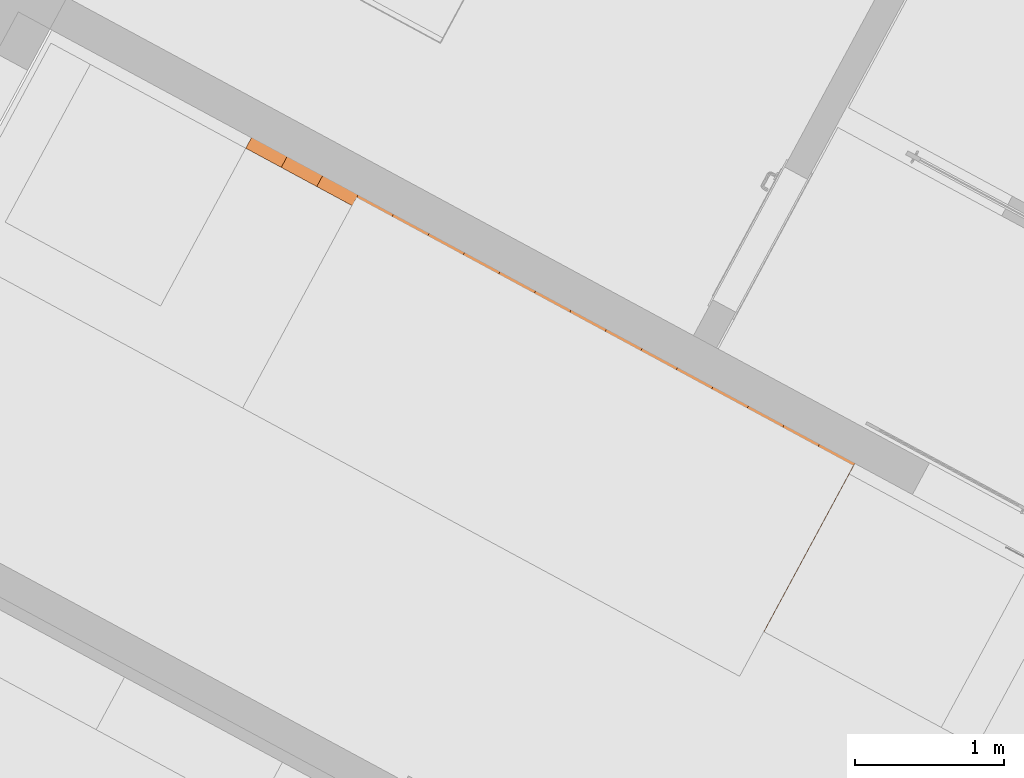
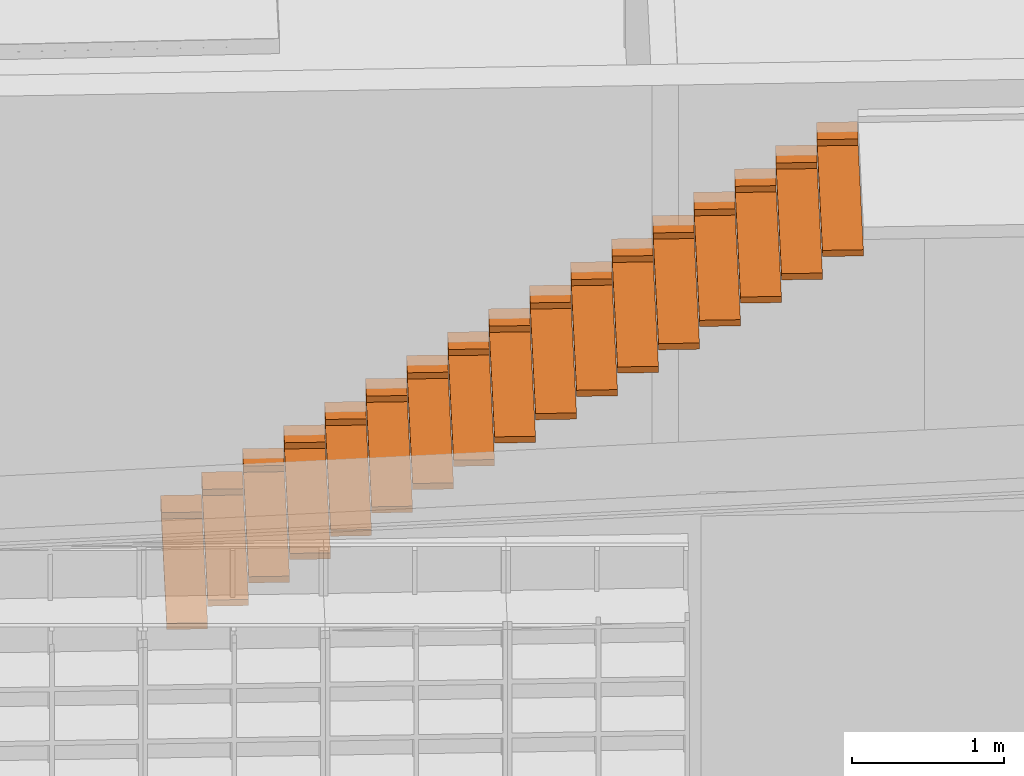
# One storey, part 50 of 52: 1 proxy.
"""IFC2X3 building model written with IfcOpenShell, lengths in metres."""

import ifcopenshell
import ifcopenshell.guid

model = None  # the IFC model being written
_history = None  # IfcOwnerHistory: only IFC2X3 demands one
_inside = {}  # id of a spatial element -> (the spatial element, [elements in it])
_under = {}  # id of a project, library or spatial element -> (it, [spatial elements below it])
_declared = {}  # id of a project -> (the project, [libraries it declares])
_typed = {}  # id of a type object -> (the type object, [elements of that type])
_made_of = {}  # id of a material, layer set ... -> (it, [elements and type objects made of it])


def new_model(schema):
    """Start an empty IFC model of exactly this schema.

    Asked for "IFC4X3", IfcOpenShell would pick the latest addendum, in which some entities
    have other attributes; the version numbers below select the first issue.
    IFC2X3 requires an IfcOwnerHistory on every rooted entity: one is made here for all.
    """
    global model, _history
    if schema == "IFC4X3":
        model = ifcopenshell.file(schema_version=(4, 3, 0, 0))
    else:
        model = ifcopenshell.file(schema=schema)
    _inside.clear()
    _under.clear()
    _declared.clear()
    _typed.clear()
    _made_of.clear()
    _history = None
    if model.schema == "IFC2X3":
        org = make("IfcOrganization", Name="unknown")
        user = make(
            "IfcPersonAndOrganization",
            ThePerson=make("IfcPerson", FamilyName="unknown"),
            TheOrganization=org,
        )
        app = make(
            "IfcApplication",
            ApplicationDeveloper=org,
            Version="unknown",
            ApplicationFullName="unknown",
            ApplicationIdentifier="unknown",
        )
        _history = make(
            "IfcOwnerHistory",
            OwningUser=user,
            OwningApplication=app,
            ChangeAction="ADDED",
            CreationDate=0,
        )
    return model


def make(cls, **values):
    """One entity of the class cls with the attributes given. An attribute that is None is left unset."""
    return model.create_entity(
        cls, **{name: value for name, value in values.items() if value is not None}
    )


def entity(cls, *values):
    """Any entity or typed value of the class cls, its attributes in the order of the schema. None: left unset."""
    e = model.create_entity(cls)
    for i, value in enumerate(values):
        if value is not None:
            e[i] = value
    return e


def rooted(cls, **values):
    """An entity with a GlobalId (a new one), such as an element, a storey or a relation."""
    return make(cls, GlobalId=ifcopenshell.guid.new(), OwnerHistory=_history, **values)


def si_unit(unit_type, name, prefix=None):
    """IfcSIUnit, for example si_unit("LENGTHUNIT", "METRE", prefix="MILLI")."""
    return make("IfcSIUnit", UnitType=unit_type, Prefix=prefix, Name=name)


def converted_unit(unit_type, name, factor, base, dimensions=None, offset=None):
    """IfcConversionBasedUnit, such as the inch: factor (a typed value) times the base unit."""
    return make(
        "IfcConversionBasedUnit"
        if offset is None
        else "IfcConversionBasedUnitWithOffset",
        ConversionOffset=offset,
        Dimensions=None
        if dimensions is None
        else entity("IfcDimensionalExponents", *dimensions),
        UnitType=unit_type,
        Name=name,
        ConversionFactor=make(
            "IfcMeasureWithUnit", ValueComponent=factor, UnitComponent=base
        ),
    )


def derived_unit(unit_type, elements):
    """IfcDerivedUnit: a product of units, each with its exponent."""
    return make(
        "IfcDerivedUnit",
        Elements=[
            make("IfcDerivedUnitElement", Unit=unit, Exponent=power)
            for unit, power in elements
        ],
        UnitType=unit_type,
    )


def money_unit(currency):
    """IfcMonetaryUnit."""
    return make("IfcMonetaryUnit", Currency=currency)


def assignment(units):
    """IfcUnitAssignment: the units of a project."""
    return None if units is None else make("IfcUnitAssignment", Units=units)


def point(xyz):
    """IfcCartesianPoint."""
    return None if xyz is None else make("IfcCartesianPoint", Coordinates=xyz)


def direction(xyz):
    """IfcDirection."""
    return None if xyz is None else make("IfcDirection", DirectionRatios=xyz)


def frame(location, z_axis=None, x_axis=None):
    """IfcAxis2Placement3D, a coordinate frame: its origin and axes. An axis left out is left unset."""
    return make(
        "IfcAxis2Placement3D",
        Location=point(location),
        Axis=direction(z_axis),
        RefDirection=direction(x_axis),
    )


def origin_with_axes():
    """The frame at (0, 0, 0) with the z axis (0, 0, 1) and the x axis (1, 0, 0) written out."""
    return frame((0.0, 0.0, 0.0), z_axis=(0.0, 0.0, 1.0), x_axis=(1.0, 0.0, 0.0))


def place(relative_to, where):
    """IfcLocalPlacement: puts the frame where relative to a parent placement (None: the world)."""
    return make(
        "IfcLocalPlacement", PlacementRelTo=relative_to, RelativePlacement=where
    )


def context(
    kind, dimensions, precision=None, world=None, true_north=None, identifier=None
):
    """IfcGeometricRepresentationContext, for example the 3D "Model" context."""
    return make(
        "IfcGeometricRepresentationContext",
        ContextIdentifier=identifier,
        ContextType=kind,
        CoordinateSpaceDimension=dimensions,
        Precision=precision,
        WorldCoordinateSystem=world,
        TrueNorth=true_north,
    )


def subcontext(parent, identifier, kind, view, scale=None):
    """IfcGeometricRepresentationSubContext, for example "Body" below "Model"."""
    return make(
        "IfcGeometricRepresentationSubContext",
        ContextIdentifier=identifier,
        ContextType=kind,
        ParentContext=parent,
        TargetScale=scale,
        TargetView=view,
    )


def project(units=None, contexts=None):
    """IfcProject with its units and contexts."""
    return rooted(
        "IfcProject",
        Name="project",
        RepresentationContexts=contexts,
        UnitsInContext=assignment(units),
    )


def spatial(cls, under=None, at=None, **own):
    """A site, building, storey or space (cls), placed at a placement, below another one or the project."""
    s = rooted(cls, ObjectPlacement=at, **own)
    if under is not None:
        _under.setdefault(under.id(), (under, []))[1].append(s)
    return s


def faces_of(points, faces, orient=None, outer=None):
    """IfcFace entities. A face is a list of loops; a loop is a list of indices into points, from 0.

    orient and outer hold one flag for each loop. By default every Orientation is true, the
    first loop of a face is its IfcFaceOuterBound and the others are IfcFaceBound.
    """
    made = []
    for i, loops in enumerate(faces):
        bounds = []
        for j, loop in enumerate(loops):
            is_outer = j == 0 if outer is None else outer[i][j]
            bounds.append(
                make(
                    "IfcFaceOuterBound" if is_outer else "IfcFaceBound",
                    Bound=make("IfcPolyLoop", Polygon=[points[k] for k in loop]),
                    Orientation=True if orient is None else orient[i][j],
                )
            )
        made.append(make("IfcFace", Bounds=bounds))
    return made


def faceted_brep(points, faces, orient=None, outer=None, voids=None):
    """IfcFacetedBrep: a solid bounded by flat faces; with voids (closed shells), ...WithVoids."""
    shared = [point(p) for p in points]
    hull = make("IfcClosedShell", CfsFaces=faces_of(shared, faces, orient, outer))
    if voids is None:
        return make("IfcFacetedBrep", Outer=hull)
    return make(
        "IfcFacetedBrepWithVoids",
        Outer=hull,
        Voids=[
            make(cls, CfsFaces=faces_of(shared, fs, o, b)) for cls, fs, o, b in voids
        ],
    )


def shape(context_of_items, identifier, shape_type, items):
    """IfcShapeRepresentation: the items that make up one representation, for example the "Body"."""
    return make(
        "IfcShapeRepresentation",
        ContextOfItems=context_of_items,
        RepresentationIdentifier=identifier,
        RepresentationType=shape_type,
        Items=items,
    )


def material(Name=None, Category=None):
    """IfcMaterial."""
    return make("IfcMaterial", Name=Name, Category=Category)


def made_of(thing, what):
    """Note that an element or type object is made of a material, layer set ...; save() writes the relation."""
    if what is not None:
        _made_of.setdefault(what.id(), (what, []))[1].append(thing)
    return thing


def type_object(cls, material=None, **own):
    """A type object (cls), such as IfcWallType, which elements share."""
    return made_of(rooted(cls, **own), material)


def element(
    cls,
    number,
    at=None,
    inside=None,
    cuts=None,
    type_object=None,
    material=None,
    context=None,
    identifier="Body",
    shape_type=None,
    held_by="IfcProductDefinitionShape",
    body=None,
    shapes=None,
    **own,
):
    """One element of the class cls, such as IfcWall. Its Tag is "e" and its number.

    at: its placement. inside: the storey or other place that contains it. cuts: it is an
    opening in that element (IfcRelVoidsElement). A single representation is given by context,
    identifier, shape_type and body (its items); several are given by shapes. held_by: the class
    of the entity that holds the representations. save() writes the other relations.
    """
    e = rooted(cls, Tag="e%d" % number, ObjectPlacement=at, **own)
    if body is not None:
        shapes = [shape(context, identifier, shape_type, body)]
    if shapes is not None:
        e.Representation = make(held_by, Representations=shapes)
    if inside is not None:
        _inside.setdefault(inside.id(), (inside, []))[1].append(e)
    if cuts is not None:
        rooted(
            "IfcRelVoidsElement", RelatingBuildingElement=cuts, RelatedOpeningElement=e
        )
    if type_object is not None:
        _typed.setdefault(type_object.id(), (type_object, []))[1].append(e)
    return made_of(e, material)


def aggregate(whole, parts):
    """IfcRelAggregates: a whole, such as a stair, and the parts it consists of."""
    return rooted("IfcRelAggregates", RelatingObject=whole, RelatedObjects=parts)


def save(model, path):
    """Write the relations noted so far, then the file.

    IfcRelAggregates (storeys below a building ...), IfcRelContainedInSpatialStructure (elements
    in a storey), IfcRelDefinesByType, IfcRelAssociatesMaterial and IfcRelDeclares: one each for
    every whole, place, type object, material and project.
    """
    for whole, parts in _under.values():
        aggregate(whole, parts)
    for where, things in _inside.values():
        rooted(
            "IfcRelContainedInSpatialStructure",
            RelatedElements=things,
            RelatingStructure=where,
        )
    for kind, things in _typed.values():
        rooted("IfcRelDefinesByType", RelatedObjects=things, RelatingType=kind)
    for what, things in _made_of.values():
        rooted("IfcRelAssociatesMaterial", RelatedObjects=things, RelatingMaterial=what)
    for by, libraries in _declared.values():
        rooted("IfcRelDeclares", RelatingContext=by, RelatedDefinitions=libraries)
    model.write(path)


model = new_model("IFC2X3")

# Units and contexts
model_context = context("Model", 3, precision=1e-05, world=origin_with_axes(), true_north=direction((0.0, 1.0)))
body_context = subcontext(model_context, "Body", "Model", "MODEL_VIEW")
ifc_project = project(units=[si_unit("LENGTHUNIT", "METRE"), si_unit("AREAUNIT", "SQUARE_METRE"), si_unit("VOLUMEUNIT", "CUBIC_METRE"), converted_unit("PLANEANGLEUNIT", "DEGREE", entity("IfcPlaneAngleMeasure", 0.0174532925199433), si_unit("PLANEANGLEUNIT", "RADIAN"), dimensions=[0, 0, 0, 0, 0, 0, 0]), money_unit("EUR"), converted_unit("TIMEUNIT", "Year", entity("IfcTimeMeasure", 31556926.0), si_unit("TIMEUNIT", "SECOND"), dimensions=[0, 0, 1, 0, 0, 0, 0]), si_unit("MASSUNIT", "GRAM", prefix="KILO"), si_unit("THERMODYNAMICTEMPERATUREUNIT", "DEGREE_CELSIUS"), si_unit("LUMINOUSINTENSITYUNIT", "LUMEN"), si_unit("ENERGYUNIT", "JOULE", prefix="MEGA"), derived_unit("THERMALCONDUCTANCEUNIT", [(si_unit("POWERUNIT", "WATT"), 1), (si_unit("LENGTHUNIT", "METRE"), -1), (si_unit("THERMODYNAMICTEMPERATUREUNIT", "KELVIN"), -1)]), derived_unit("SPECIFICHEATCAPACITYUNIT", [(si_unit("ENERGYUNIT", "JOULE"), 1), (si_unit("MASSUNIT", "GRAM", prefix="KILO"), -1), (si_unit("THERMODYNAMICTEMPERATUREUNIT", "KELVIN"), -1)]), derived_unit("MASSDENSITYUNIT", [(si_unit("MASSUNIT", "GRAM", prefix="KILO"), 1), (si_unit("VOLUMEUNIT", "CUBIC_METRE"), -1)])], contexts=[model_context])

# Site, building, storey
site_placement = place(None, frame((-3.949935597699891, 1.740105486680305, 0.0), z_axis=(0.0, 0.0, 1.0), x_axis=(0.8799804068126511, -0.475009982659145, 0.0)))
site = spatial("IfcSite", under=ifc_project, at=site_placement, Name="Gelände", CompositionType="ELEMENT")
building_placement = place(site_placement, origin_with_axes())
building = spatial("IfcBuilding", under=site, at=building_placement, Name="Gebäude", CompositionType="ELEMENT")
storey_placement = place(building_placement, origin_with_axes())
storey = spatial("IfcBuildingStorey", under=building, at=storey_placement, Name="Erdgeschoss", CompositionType="ELEMENT", Elevation=0.0)

# Proxy
ifc_material = material(Name="Metall, Stahl lackiert")
building_element_proxy_type = type_object("IfcBuildingElementProxyType", Name="Treppentyp", PredefinedType="NOTDEFINED")
proxy_placement = place(storey_placement, frame((7.129984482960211, 10.57779198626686, 0.364), z_axis=(0.0, 0.0, 1.0), x_axis=(1.0, 0.0, 0.0)))
element("IfcBuildingElementProxy", 1, at=proxy_placement, inside=storey, type_object=building_element_proxy_type, material=ifc_material, Name="Treppe-001", context=body_context, shape_type="Brep", body=[
    faceted_brep([(0.269999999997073, 1.257022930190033e-06, 0.1220000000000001), (0.2699990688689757, 0.2000012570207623, 0.1220000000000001), (0.2699990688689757, 0.2000012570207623, 0.2220000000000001), (0.269999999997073, 1.257022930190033e-06, 0.2220000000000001), (0.0, 0.0, 0.1220000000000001), (-9.311280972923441e-07, 0.1999999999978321, 0.1220000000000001), (-9.311280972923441e-07, 0.1999999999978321, 0.2220000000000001), (0.0, 0.0, 0.2220000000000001)], [[[0, 1, 2, 3]], [[0, 4, 5, 1]], [[1, 5, 6, 2]], [[3, 2, 6, 7]], [[4, 0, 3, 7]], [[5, 4, 7, 6]]]),
    faceted_brep([(0.5399999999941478, 2.514045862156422e-06, 0.304), (0.5399990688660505, 0.2000025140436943, 0.304), (0.5399990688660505, 0.2000025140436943, 0.404), (0.5399999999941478, 2.514045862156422e-06, 0.404), (0.269999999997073, 1.257022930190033e-06, 0.304), (0.2699990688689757, 0.2000012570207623, 0.304), (0.2699990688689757, 0.2000012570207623, 0.404), (0.269999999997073, 1.257022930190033e-06, 0.404)], [[[0, 1, 2, 3]], [[0, 4, 5, 1]], [[1, 5, 6, 2]], [[3, 2, 6, 7]], [[4, 0, 3, 7]], [[5, 4, 7, 6]]]),
    faceted_brep([(0.8099999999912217, 3.771068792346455e-06, 0.4860000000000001), (0.8099990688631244, 0.2000037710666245, 0.4860000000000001), (0.8099990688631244, 0.2000037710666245, 0.5860000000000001), (0.8099999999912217, 3.771068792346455e-06, 0.5860000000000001), (0.5399999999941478, 2.514045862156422e-06, 0.4860000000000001), (0.5399990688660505, 0.2000025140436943, 0.4860000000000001), (0.5399990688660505, 0.2000025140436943, 0.5860000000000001), (0.5399999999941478, 2.514045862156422e-06, 0.5860000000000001)], [[[0, 1, 2, 3]], [[0, 4, 5, 1]], [[1, 5, 6, 2]], [[3, 2, 6, 7]], [[4, 0, 3, 7]], [[5, 4, 7, 6]]]),
    faceted_brep([(1.079999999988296, 5.028091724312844e-06, 0.668), (1.079999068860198, 0.2000050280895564, 0.668), (1.079999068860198, 0.2000050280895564, 0.7680000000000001), (1.079999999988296, 5.028091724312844e-06, 0.7680000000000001), (0.8099999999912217, 3.771068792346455e-06, 0.668), (0.8099990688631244, 0.2000037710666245, 0.668), (0.8099990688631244, 0.2000037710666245, 0.7680000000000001), (0.8099999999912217, 3.771068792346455e-06, 0.7680000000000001)], [[[0, 1, 2, 3]], [[0, 4, 5, 1]], [[1, 5, 6, 2]], [[3, 2, 6, 7]], [[4, 0, 3, 7]], [[5, 4, 7, 6]]]),
    faceted_brep([(1.34999999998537, 6.285114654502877e-06, 0.85), (1.349999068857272, 0.2000062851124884, 0.85), (1.349999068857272, 0.2000062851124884, 0.9500000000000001), (1.34999999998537, 6.285114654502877e-06, 0.9500000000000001), (1.079999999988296, 5.028091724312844e-06, 0.85), (1.079999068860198, 0.2000050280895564, 0.85), (1.079999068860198, 0.2000050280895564, 0.9500000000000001), (1.079999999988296, 5.028091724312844e-06, 0.9500000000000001)], [[[0, 1, 2, 3]], [[0, 4, 5, 1]], [[1, 5, 6, 2]], [[3, 2, 6, 7]], [[4, 0, 3, 7]], [[5, 4, 7, 6]]]),
    faceted_brep([(1.619999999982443, 7.542137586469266e-06, 1.032), (1.619999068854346, 0.2000075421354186, 1.032), (1.619999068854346, 0.2000075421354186, 1.132), (1.619999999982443, 7.542137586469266e-06, 1.132), (1.34999999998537, 6.285114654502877e-06, 1.032), (1.349999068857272, 0.2000062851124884, 1.032), (1.349999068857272, 0.2000062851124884, 1.132), (1.34999999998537, 6.285114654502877e-06, 1.132)], [[[0, 1, 2, 3]], [[0, 4, 5, 1]], [[1, 5, 6, 2]], [[3, 2, 6, 7]], [[4, 0, 3, 7]], [[5, 4, 7, 6]]]),
    faceted_brep([(1.889999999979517, 8.799160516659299e-06, 1.214), (1.88999906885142, 0.2000087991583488, 1.214), (1.88999906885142, 0.2000087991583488, 1.314), (1.889999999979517, 8.799160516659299e-06, 1.314), (1.619999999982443, 7.542137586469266e-06, 1.214), (1.619999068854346, 0.2000075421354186, 1.214), (1.619999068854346, 0.2000075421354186, 1.314), (1.619999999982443, 7.542137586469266e-06, 1.314)], [[[0, 1, 2, 3]], [[0, 4, 5, 1]], [[1, 5, 6, 2]], [[3, 2, 6, 7]], [[4, 0, 3, 7]], [[5, 4, 7, 6]]]),
    faceted_brep([(2.159999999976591, 1.005618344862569e-05, 1.396), (2.159999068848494, 0.2000100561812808, 1.396), (2.159999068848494, 0.2000100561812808, 1.496), (2.159999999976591, 1.005618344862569e-05, 1.496), (1.889999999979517, 8.799160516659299e-06, 1.396), (1.88999906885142, 0.2000087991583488, 1.396), (1.88999906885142, 0.2000087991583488, 1.496), (1.889999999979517, 8.799160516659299e-06, 1.496)], [[[0, 1, 2, 3]], [[0, 4, 5, 1]], [[1, 5, 6, 2]], [[3, 2, 6, 7]], [[4, 0, 3, 7]], [[5, 4, 7, 6]]]),
    faceted_brep([(2.429999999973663, 1.131320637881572e-05, 1.578), (2.429999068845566, 0.2000113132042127, 1.578), (2.429999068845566, 0.2000113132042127, 1.678), (2.429999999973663, 1.131320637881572e-05, 1.678), (2.159999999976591, 1.005618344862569e-05, 1.578), (2.159999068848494, 0.2000100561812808, 1.578), (2.159999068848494, 0.2000100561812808, 1.678), (2.159999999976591, 1.005618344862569e-05, 1.678)], [[[0, 1, 2, 3]], [[0, 4, 5, 1]], [[1, 5, 6, 2]], [[3, 2, 6, 7]], [[4, 0, 3, 7]], [[5, 4, 7, 6]]]),
    faceted_brep([(2.699999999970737, 1.257022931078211e-05, 1.76), (2.69999906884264, 0.2000125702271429, 1.76), (2.69999906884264, 0.2000125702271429, 1.86), (2.699999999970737, 1.257022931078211e-05, 1.86), (2.429999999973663, 1.131320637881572e-05, 1.76), (2.429999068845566, 0.2000113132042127, 1.76), (2.429999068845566, 0.2000113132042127, 1.86), (2.429999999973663, 1.131320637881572e-05, 1.86)], [[[0, 1, 2, 3]], [[0, 4, 5, 1]], [[1, 5, 6, 2]], [[3, 2, 6, 7]], [[4, 0, 3, 7]], [[5, 4, 7, 6]]]),
    faceted_brep([(2.969999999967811, 1.382725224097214e-05, 1.942), (2.969999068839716, 0.2000138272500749, 1.942), (2.969999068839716, 0.2000138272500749, 2.042), (2.969999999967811, 1.382725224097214e-05, 2.042), (2.699999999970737, 1.257022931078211e-05, 1.942), (2.69999906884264, 0.2000125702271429, 1.942), (2.69999906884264, 0.2000125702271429, 2.042), (2.699999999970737, 1.257022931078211e-05, 2.042)], [[[0, 1, 2, 3]], [[0, 4, 5, 1]], [[1, 5, 6, 2]], [[3, 2, 6, 7]], [[4, 0, 3, 7]], [[5, 4, 7, 6]]]),
    faceted_brep([(3.239999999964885, 1.508427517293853e-05, 2.124000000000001), (3.239999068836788, 0.2000150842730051, 2.124000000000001), (3.239999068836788, 0.2000150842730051, 2.224), (3.239999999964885, 1.508427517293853e-05, 2.224), (2.969999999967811, 1.382725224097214e-05, 2.124000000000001), (2.969999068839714, 0.2000138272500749, 2.124000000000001), (2.969999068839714, 0.2000138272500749, 2.224), (2.969999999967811, 1.382725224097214e-05, 2.224)], [[[0, 1, 2, 3]], [[0, 4, 5, 1]], [[1, 5, 6, 2]], [[3, 2, 6, 7]], [[4, 0, 3, 7]], [[5, 4, 7, 6]]]),
    faceted_brep([(3.509999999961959, 1.634129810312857e-05, 2.306000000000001), (3.509999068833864, 0.200016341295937, 2.306000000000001), (3.509999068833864, 0.200016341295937, 2.406000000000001), (3.509999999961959, 1.634129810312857e-05, 2.406000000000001), (3.239999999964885, 1.508427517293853e-05, 2.306000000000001), (3.239999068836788, 0.2000150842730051, 2.306000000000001), (3.239999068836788, 0.2000150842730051, 2.406000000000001), (3.239999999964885, 1.508427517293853e-05, 2.406000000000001)], [[[0, 1, 2, 3]], [[0, 4, 5, 1]], [[1, 5, 6, 2]], [[3, 2, 6, 7]], [[4, 0, 3, 7]], [[5, 4, 7, 6]]]),
    faceted_brep([(3.779999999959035, 1.759832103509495e-05, 2.488), (3.779999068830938, 0.2000175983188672, 2.488), (3.779999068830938, 0.2000175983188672, 2.588000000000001), (3.779999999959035, 1.759832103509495e-05, 2.588000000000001), (3.509999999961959, 1.634129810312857e-05, 2.488), (3.509999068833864, 0.200016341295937, 2.488), (3.509999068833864, 0.200016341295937, 2.588000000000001), (3.509999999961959, 1.634129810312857e-05, 2.588000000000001)], [[[0, 1, 2, 3]], [[0, 4, 5, 1]], [[1, 5, 6, 2]], [[3, 2, 6, 7]], [[4, 0, 3, 7]], [[5, 4, 7, 6]]]),
    faceted_brep([(4.04999999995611, 1.885534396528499e-05, 2.670000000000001), (4.049999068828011, 0.2000188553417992, 2.670000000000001), (4.049999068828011, 0.2000188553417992, 2.77), (4.04999999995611, 1.885534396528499e-05, 2.77), (3.779999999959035, 1.759832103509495e-05, 2.670000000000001), (3.779999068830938, 0.2000175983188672, 2.670000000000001), (3.779999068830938, 0.2000175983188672, 2.77), (3.779999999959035, 1.759832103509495e-05, 2.77)], [[[0, 1, 2, 3]], [[0, 4, 5, 1]], [[1, 5, 6, 2]], [[3, 2, 6, 7]], [[4, 0, 3, 7]], [[5, 4, 7, 6]]]),
    faceted_brep([(4.319999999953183, 2.011236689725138e-05, 2.852), (4.319999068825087, 0.2000201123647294, 2.852), (4.319999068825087, 0.2000201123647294, 2.952000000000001), (4.319999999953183, 2.011236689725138e-05, 2.952000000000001), (4.04999999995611, 1.885534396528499e-05, 2.852), (4.049999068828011, 0.2000188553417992, 2.852), (4.049999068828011, 0.2000188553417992, 2.952000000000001), (4.04999999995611, 1.885534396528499e-05, 2.952000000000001)], [[[0, 1, 2, 3]], [[0, 4, 5, 1]], [[1, 5, 6, 2]], [[3, 2, 6, 7]], [[4, 0, 3, 7]], [[5, 4, 7, 6]]]),
    faceted_brep([(4.589999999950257, 2.136938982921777e-05, 3.034000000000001), (4.589999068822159, 0.2000213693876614, 3.034000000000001), (4.589999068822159, 0.2000213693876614, 3.134), (4.589999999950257, 2.136938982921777e-05, 3.134), (4.319999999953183, 2.011236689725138e-05, 3.034000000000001), (4.319999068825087, 0.2000201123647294, 3.034000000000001), (4.319999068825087, 0.2000201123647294, 3.134), (4.319999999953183, 2.011236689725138e-05, 3.134)], [[[0, 1, 2, 3]], [[0, 4, 5, 1]], [[1, 5, 6, 2]], [[3, 2, 6, 7]], [[4, 0, 3, 7]], [[5, 4, 7, 6]]]),
    faceted_brep([(0.0, 0.0, 0.1220000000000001), (5.586768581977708e-06, -1.199999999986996, 0.1220000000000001), (5.586768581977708e-06, -1.199999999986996, 0.172), (0.0, 0.0, 0.172), (0.269999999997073, 1.257022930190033e-06, 0.1220000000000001), (0.2700055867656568, -1.199998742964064, 0.1220000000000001), (0.2700055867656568, -1.199998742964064, 0.172), (0.269999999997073, 1.257022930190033e-06, 0.172)], [[[0, 1, 2, 3]], [[0, 4, 5, 1]], [[1, 5, 6, 2]], [[3, 2, 6, 7]], [[4, 0, 3, 7]], [[5, 4, 7, 6]]]),
    faceted_brep([(0.269999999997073, 1.257022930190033e-06, 0.304), (0.2700055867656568, -1.199998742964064, 0.304), (0.2700055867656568, -1.199998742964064, 0.354), (0.269999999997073, 1.257022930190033e-06, 0.354), (0.5399999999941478, 2.514045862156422e-06, 0.304), (0.5400055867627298, -1.199997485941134, 0.304), (0.5400055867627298, -1.199997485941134, 0.354), (0.5399999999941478, 2.514045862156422e-06, 0.354)], [[[0, 1, 2, 3]], [[0, 4, 5, 1]], [[1, 5, 6, 2]], [[3, 2, 6, 7]], [[4, 0, 3, 7]], [[5, 4, 7, 6]]]),
    faceted_brep([(0.5399999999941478, 2.514045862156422e-06, 0.4860000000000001), (0.5400055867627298, -1.199997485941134, 0.4860000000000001), (0.5400055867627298, -1.199997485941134, 0.5360000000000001), (0.5399999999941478, 2.514045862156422e-06, 0.5360000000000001), (0.8099999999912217, 3.771068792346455e-06, 0.4860000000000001), (0.8100055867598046, -1.199996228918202, 0.4860000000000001), (0.8100055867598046, -1.199996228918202, 0.5360000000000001), (0.8099999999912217, 3.771068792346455e-06, 0.5360000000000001)], [[[0, 1, 2, 3]], [[0, 4, 5, 1]], [[1, 5, 6, 2]], [[3, 2, 6, 7]], [[4, 0, 3, 7]], [[5, 4, 7, 6]]]),
    faceted_brep([(0.8099999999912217, 3.771068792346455e-06, 0.668), (0.8100055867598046, -1.199996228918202, 0.668), (0.8100055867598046, -1.199996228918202, 0.7180000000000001), (0.8099999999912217, 3.771068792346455e-06, 0.7180000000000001), (1.079999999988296, 5.028091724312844e-06, 0.668), (1.080005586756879, -1.19999497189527, 0.668), (1.080005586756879, -1.19999497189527, 0.7180000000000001), (1.079999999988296, 5.028091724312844e-06, 0.7180000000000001)], [[[0, 1, 2, 3]], [[0, 4, 5, 1]], [[1, 5, 6, 2]], [[3, 2, 6, 7]], [[4, 0, 3, 7]], [[5, 4, 7, 6]]]),
    faceted_brep([(1.079999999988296, 5.028091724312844e-06, 0.85), (1.080005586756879, -1.19999497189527, 0.85), (1.080005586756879, -1.19999497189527, 0.9), (1.079999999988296, 5.028091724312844e-06, 0.9), (1.34999999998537, 6.285114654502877e-06, 0.85), (1.350005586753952, -1.19999371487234, 0.85), (1.350005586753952, -1.19999371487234, 0.9), (1.34999999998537, 6.285114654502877e-06, 0.9)], [[[0, 1, 2, 3]], [[0, 4, 5, 1]], [[1, 5, 6, 2]], [[3, 2, 6, 7]], [[4, 0, 3, 7]], [[5, 4, 7, 6]]]),
    faceted_brep([(1.34999999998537, 6.285114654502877e-06, 1.032), (1.350005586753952, -1.19999371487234, 1.032), (1.350005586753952, -1.19999371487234, 1.082), (1.34999999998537, 6.285114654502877e-06, 1.082), (1.619999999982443, 7.542137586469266e-06, 1.032), (1.620005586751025, -1.199992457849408, 1.032), (1.620005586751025, -1.199992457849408, 1.082), (1.619999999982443, 7.542137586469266e-06, 1.082)], [[[0, 1, 2, 3]], [[0, 4, 5, 1]], [[1, 5, 6, 2]], [[3, 2, 6, 7]], [[4, 0, 3, 7]], [[5, 4, 7, 6]]]),
    faceted_brep([(1.619999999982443, 7.542137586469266e-06, 1.214), (1.620005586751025, -1.199992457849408, 1.214), (1.620005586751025, -1.199992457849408, 1.264), (1.619999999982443, 7.542137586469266e-06, 1.264), (1.889999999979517, 8.799160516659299e-06, 1.214), (1.890005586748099, -1.199991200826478, 1.214), (1.890005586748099, -1.199991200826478, 1.264), (1.889999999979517, 8.799160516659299e-06, 1.264)], [[[0, 1, 2, 3]], [[0, 4, 5, 1]], [[1, 5, 6, 2]], [[3, 2, 6, 7]], [[4, 0, 3, 7]], [[5, 4, 7, 6]]]),
    faceted_brep([(1.889999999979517, 8.799160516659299e-06, 1.396), (1.890005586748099, -1.199991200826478, 1.396), (1.890005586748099, -1.199991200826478, 1.446), (1.889999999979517, 8.799160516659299e-06, 1.446), (2.159999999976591, 1.005618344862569e-05, 1.396), (2.160005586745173, -1.199989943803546, 1.396), (2.160005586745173, -1.199989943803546, 1.446), (2.159999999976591, 1.005618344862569e-05, 1.446)], [[[0, 1, 2, 3]], [[0, 4, 5, 1]], [[1, 5, 6, 2]], [[3, 2, 6, 7]], [[4, 0, 3, 7]], [[5, 4, 7, 6]]]),
    faceted_brep([(2.159999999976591, 1.005618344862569e-05, 1.578), (2.160005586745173, -1.199989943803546, 1.578), (2.160005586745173, -1.199989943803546, 1.628), (2.159999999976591, 1.005618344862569e-05, 1.628), (2.429999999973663, 1.131320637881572e-05, 1.578), (2.430005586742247, -1.199988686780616, 1.578), (2.430005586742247, -1.199988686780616, 1.628), (2.429999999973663, 1.131320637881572e-05, 1.628)], [[[0, 1, 2, 3]], [[0, 4, 5, 1]], [[1, 5, 6, 2]], [[3, 2, 6, 7]], [[4, 0, 3, 7]], [[5, 4, 7, 6]]]),
    faceted_brep([(2.429999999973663, 1.131320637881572e-05, 1.76), (2.430005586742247, -1.199988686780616, 1.76), (2.430005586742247, -1.199988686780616, 1.81), (2.429999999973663, 1.131320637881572e-05, 1.81), (2.699999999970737, 1.257022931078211e-05, 1.76), (2.700005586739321, -1.199987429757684, 1.76), (2.700005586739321, -1.199987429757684, 1.81), (2.699999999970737, 1.257022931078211e-05, 1.81)], [[[0, 1, 2, 3]], [[0, 4, 5, 1]], [[1, 5, 6, 2]], [[3, 2, 6, 7]], [[4, 0, 3, 7]], [[5, 4, 7, 6]]]),
    faceted_brep([(2.699999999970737, 1.257022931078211e-05, 1.942), (2.700005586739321, -1.199987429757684, 1.942), (2.700005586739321, -1.199987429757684, 1.992), (2.699999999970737, 1.257022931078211e-05, 1.992), (2.969999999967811, 1.382725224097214e-05, 1.942), (2.970005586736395, -1.199986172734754, 1.942), (2.970005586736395, -1.199986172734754, 1.992), (2.969999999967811, 1.382725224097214e-05, 1.992)], [[[0, 1, 2, 3]], [[0, 4, 5, 1]], [[1, 5, 6, 2]], [[3, 2, 6, 7]], [[4, 0, 3, 7]], [[5, 4, 7, 6]]]),
    faceted_brep([(2.969999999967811, 1.382725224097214e-05, 2.124000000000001), (2.970005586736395, -1.199986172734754, 2.124000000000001), (2.970005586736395, -1.199986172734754, 2.174), (2.969999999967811, 1.382725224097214e-05, 2.174), (3.239999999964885, 1.508427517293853e-05, 2.124000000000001), (3.240005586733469, -1.199984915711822, 2.124000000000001), (3.240005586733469, -1.199984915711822, 2.174), (3.239999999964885, 1.508427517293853e-05, 2.174)], [[[0, 1, 2, 3]], [[0, 4, 5, 1]], [[1, 5, 6, 2]], [[3, 2, 6, 7]], [[4, 0, 3, 7]], [[5, 4, 7, 6]]]),
    faceted_brep([(3.239999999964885, 1.508427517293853e-05, 2.306000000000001), (3.240005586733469, -1.199984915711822, 2.306000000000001), (3.240005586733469, -1.199984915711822, 2.356000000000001), (3.239999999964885, 1.508427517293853e-05, 2.356000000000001), (3.509999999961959, 1.634129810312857e-05, 2.306000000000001), (3.510005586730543, -1.199983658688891, 2.306000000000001), (3.510005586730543, -1.199983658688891, 2.356000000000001), (3.509999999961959, 1.634129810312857e-05, 2.356000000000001)], [[[0, 1, 2, 3]], [[0, 4, 5, 1]], [[1, 5, 6, 2]], [[3, 2, 6, 7]], [[4, 0, 3, 7]], [[5, 4, 7, 6]]]),
    faceted_brep([(3.509999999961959, 1.634129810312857e-05, 2.488), (3.510005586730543, -1.199983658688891, 2.488), (3.510005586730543, -1.199983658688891, 2.538), (3.509999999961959, 1.634129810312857e-05, 2.538), (3.779999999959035, 1.759832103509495e-05, 2.488), (3.780005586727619, -1.199982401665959, 2.488), (3.780005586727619, -1.199982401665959, 2.538), (3.779999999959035, 1.759832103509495e-05, 2.538)], [[[0, 1, 2, 3]], [[0, 4, 5, 1]], [[1, 5, 6, 2]], [[3, 2, 6, 7]], [[4, 0, 3, 7]], [[5, 4, 7, 6]]]),
    faceted_brep([(3.779999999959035, 1.759832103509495e-05, 2.670000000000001), (3.780005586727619, -1.199982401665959, 2.670000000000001), (3.780005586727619, -1.199982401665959, 2.720000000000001), (3.779999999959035, 1.759832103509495e-05, 2.720000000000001), (4.04999999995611, 1.885534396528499e-05, 2.670000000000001), (4.050005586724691, -1.199981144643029, 2.670000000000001), (4.050005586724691, -1.199981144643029, 2.720000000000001), (4.04999999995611, 1.885534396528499e-05, 2.720000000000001)], [[[0, 1, 2, 3]], [[0, 4, 5, 1]], [[1, 5, 6, 2]], [[3, 2, 6, 7]], [[4, 0, 3, 7]], [[5, 4, 7, 6]]]),
    faceted_brep([(4.04999999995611, 1.885534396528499e-05, 2.852), (4.050005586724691, -1.199981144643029, 2.852), (4.050005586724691, -1.199981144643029, 2.902), (4.04999999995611, 1.885534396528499e-05, 2.902), (4.319999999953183, 2.011236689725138e-05, 2.852), (4.320005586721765, -1.199979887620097, 2.852), (4.320005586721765, -1.199979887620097, 2.902), (4.319999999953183, 2.011236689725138e-05, 2.902)], [[[0, 1, 2, 3]], [[0, 4, 5, 1]], [[1, 5, 6, 2]], [[3, 2, 6, 7]], [[4, 0, 3, 7]], [[5, 4, 7, 6]]]),
    faceted_brep([(4.319999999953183, 2.011236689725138e-05, 3.034000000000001), (4.320005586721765, -1.199979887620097, 3.034000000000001), (4.320005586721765, -1.199979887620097, 3.084000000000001), (4.319999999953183, 2.011236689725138e-05, 3.084000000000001), (4.589999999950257, 2.136938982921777e-05, 3.034000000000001), (4.590005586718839, -1.199978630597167, 3.034000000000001), (4.590005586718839, -1.199978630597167, 3.084000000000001), (4.589999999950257, 2.136938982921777e-05, 3.084000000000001)], [[[0, 1, 2, 3]], [[0, 4, 5, 1]], [[1, 5, 6, 2]], [[3, 2, 6, 7]], [[4, 0, 3, 7]], [[5, 4, 7, 6]]]),
])

save(model, "model.ifc")
